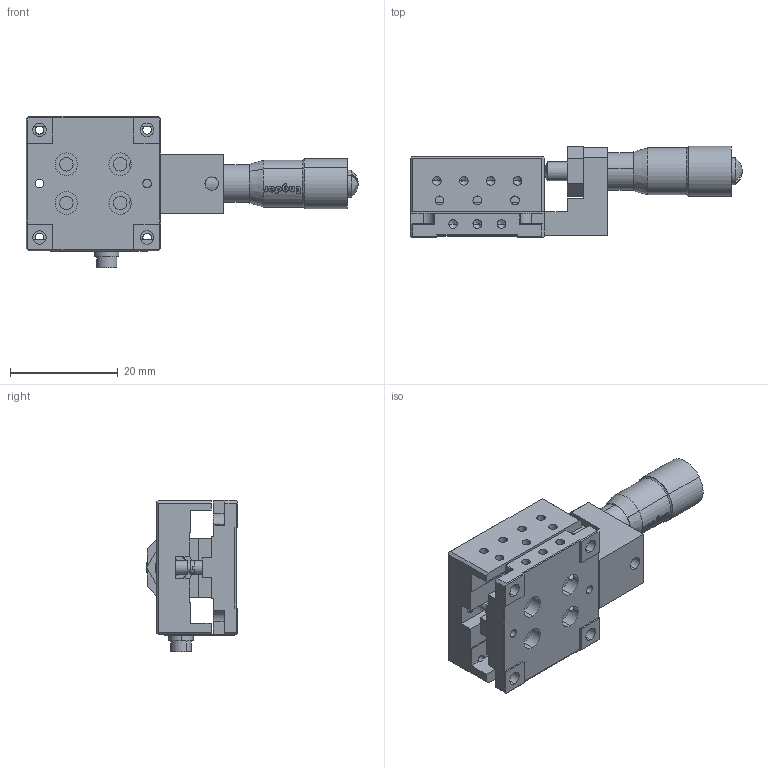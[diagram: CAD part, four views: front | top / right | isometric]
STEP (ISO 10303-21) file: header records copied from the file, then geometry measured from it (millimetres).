
FILE_DESCRIPTION (( 'STEP AP203' ), '1' );
FILE_NAME ('MX25-C.STEP', '2018-08-17T06:21:53', ( 'User' ), ( 'No' ), 'SwSTEP 2.0', 'SolidWorks 2012', '' );
FILE_SCHEMA (( 'CONFIG_CONTROL_DESIGN' ));
Length unit declared in the file: millimetre
Products named in the file (1): MX25-C
Bounding box: 61.68 x 16.95 x 28.1 mm (x, y, z)
Volume: 8389.8 mm3; surface area: 8927.7 mm2
Topology: 4 solids, 5 shells, 502 faces, 1308 edges, 828 vertices
Faces by surface type: plane 214, cylinder 186, bspline 55, cone 47
Entity records: 20467 total; most frequent: CARTESIAN_POINT 8181, ORIENTED_EDGE 2564, DIRECTION 2452, EDGE_CURVE 1282, AXIS2_PLACEMENT_3D 865, VERTEX_POINT 828, VECTOR 722, LINE 722
